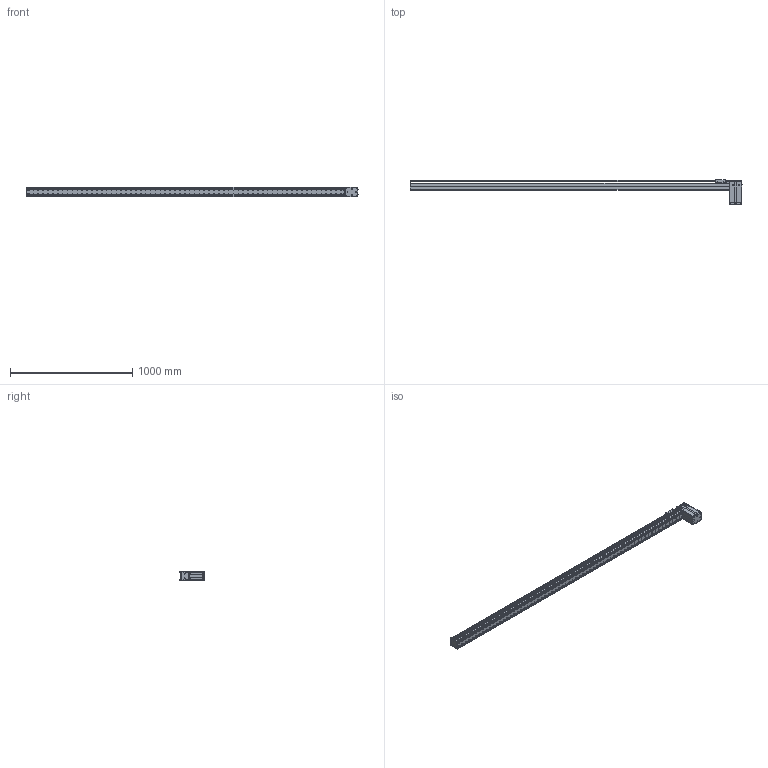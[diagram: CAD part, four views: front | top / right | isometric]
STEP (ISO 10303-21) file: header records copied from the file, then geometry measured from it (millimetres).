
FILE_DESCRIPTION((''),'2;1');
FILE_NAME('BE10_-BU-S_N-Q5_IGS_PRT','2017-06-18T',(' '),(''),'PRO/ENGINEER BY PARAMETRIC TECHNOLOGY CORPORATION, 2015030','PRO/ENGINEER BY PARAMETRIC TECHNOLOGY CORPORATION, 2015030','');
FILE_SCHEMA(('CONFIG_CONTROL_DESIGN'));
Products named in the file (1): BE10_-BU-S_N-Q5_IGS_PRT
Bounding box: 2720.8 x 202.72 x 78 mm (x, y, z)
Volume: 3427042.7 mm3; surface area: 2419930.2 mm2
Topology: 5 solids, 209 shells, 2453 faces, 6760 edges, 4524 vertices
Faces by surface type: cylinder 1207, plane 1087, cone 103, sphere 28, torus 25, bspline 3
Entity records: 80840 total; most frequent: CARTESIAN_POINT 16597, DIRECTION 13722, ORIENTED_EDGE 12628, EDGE_CURVE 6704, AXIS2_PLACEMENT_3D 5082, VERTEX_POINT 4523, VECTOR 3558, LINE 3558
